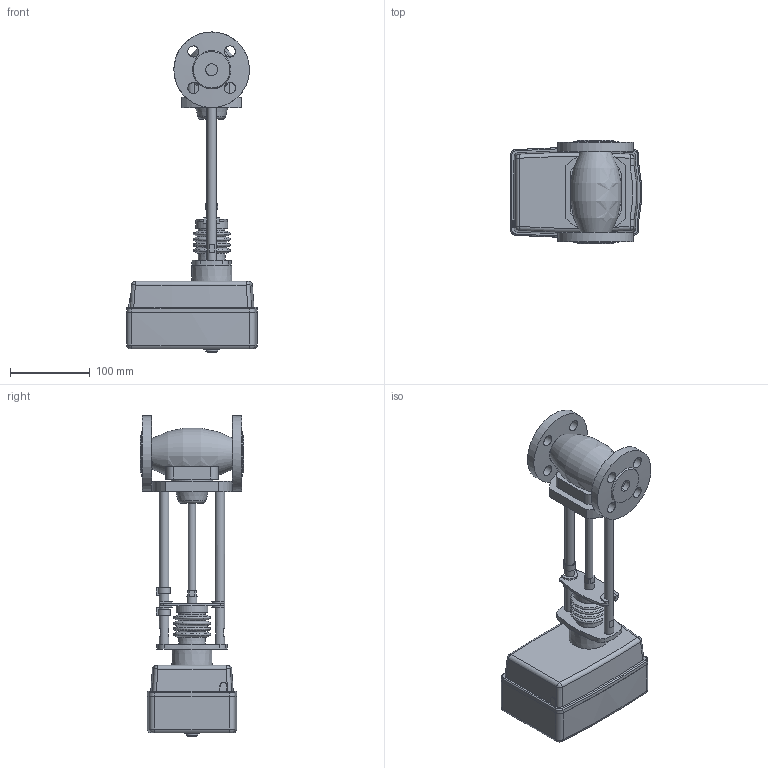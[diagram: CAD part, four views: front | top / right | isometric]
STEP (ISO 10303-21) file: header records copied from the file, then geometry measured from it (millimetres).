
FILE_DESCRIPTION(/* description */ ('Unknown'),/* implementation_level */ '2;1');
FILE_NAME(/* name */ 'Клапан TRV-P-015-101',/* time_stamp */ '2021-12-06T16:55:33+03:00',/* author */ ('Unknown'),/* organization */ ('Unknown'),/* preprocessor_version */ 'ST-DEVELOPER v16.7',/* originating_system */ 'DEX',/* authorisation */ $);
FILE_SCHEMA (('AUTOMOTIVE_DESIGN {1 0 10303 214 3 1 1}'));
Length unit declared in the file: millimetre
Products named in the file (1): 抔黽鳧 TRV-P-015-101
Bounding box: 164.51 x 130 x 402.4 mm (x, y, z)
Volume: 2181632.2 mm3; surface area: 190191 mm2
Topology: 1 solids, 1 shells, 302 faces, 785 edges, 502 vertices
Faces by surface type: plane 147, cylinder 75, torus 33, cone 28, bspline 15, sphere 4
Full cylindrical faces by diameter (mm): 9.246 x1, 12.002 x4, 13 x1, 14 x8, 15 x2, 33.4 x1, 40 x1, 52 x1, 95 x2
Entity records: 12134 total; most frequent: CARTESIAN_POINT 2986, DIRECTION 1471, ORIENTED_EDGE 1388, EDGE_CURVE 694, AXIS2_PLACEMENT_3D 573, VERTEX_POINT 463, EDGE_LOOP 395, FACE_BOUND 395
